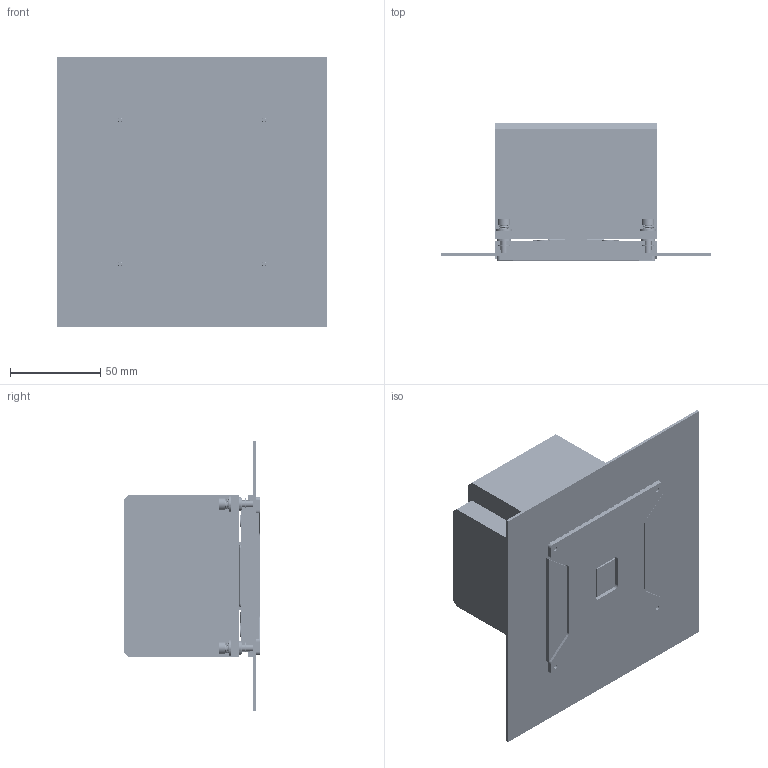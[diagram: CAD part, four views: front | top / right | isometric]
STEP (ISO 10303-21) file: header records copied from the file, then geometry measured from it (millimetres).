
FILE_DESCRIPTION((''),'2;1');
FILE_NAME('THURLEY_HEATSINK_EC_SUBASSY_ASM','2009-10-02T',('nulen'),('INTEL'),'PRO/ENGINEER BY PARAMETRIC TECHNOLOGY CORPORATION, 2008400','PRO/ENGINEER BY PARAMETRIC TECHNOLOGY CORPORATION, 2008400','');
FILE_SCHEMA(('CONFIG_CONTROL_DESIGN'));
Length unit declared in the file: millimetre
Products named in the file (33): D77712_PTMI; THURLEY_BOARD_COUPON_PTMI; D89212-001_PTMI; D89394-001_PTMI; ILM_STUD_FLUSHMOUNT_PTMI; D88971-001_PTMI; D88972-001_PTMI_ASM; E52211; E52211_CLIP; E52211_ASM; ILM_SKTB_ASSY_SKEL; D79901-003; D79904-003; D79905-002; D80116-004; D80118-004; D79903-006_ASM; NEHALEM_SUBSTRATE_PTMI; NEHALEM_DIE_PTMI; NEHALEM_IHS_PTMI; NEHALEM_SEALANT_PTMI; NEHALEM_PACKAGE_PMTI_ASM; TIM2_PTMI; D90097-001_PTMI; D91472-001_PTMI; D89882-001_PTMI; D89880-001_PTMI; D89885-001_PTMI; D85003-001_PTMI_ASM; D93142-001_PTMI; D93127-001_PTMI_ASM; E52211_CAP; THURLEY_HEATSINK_EC_SUBASSY_ASM
Assembly tree (376 placements, depth 3):
  THURLEY_HEATSINK_EC_SUBASSY_ASM
    D77712_PTMI
    THURLEY_BOARD_COUPON_PTMI
    D88972-001_PTMI_ASM
      D89212-001_PTMI
      D89394-001_PTMI  x4
      ILM_STUD_FLUSHMOUNT_PTMI  x4
      D88971-001_PTMI
    E52211_ASM
      E52211
      E52211_CLIP  x304
    D79903-006_ASM
      ILM_SKTB_ASSY_SKEL
      D79901-003
      D79904-003  x2
      D79905-002
      D80116-004  x4
      D80118-004  x4
    NEHALEM_PACKAGE_PMTI_ASM
      NEHALEM_SUBSTRATE_PTMI
      NEHALEM_DIE_PTMI
      NEHALEM_IHS_PTMI
      NEHALEM_SEALANT_PTMI
    TIM2_PTMI
    D85003-001_PTMI_ASM
      D90097-001_PTMI
      D91472-001_PTMI  x4
      D89882-001_PTMI  x4
      D89880-001_PTMI  x4
      D89885-001_PTMI  x4
    D93127-001_PTMI_ASM
      D93142-001_PTMI
      D91472-001_PTMI  x4
      D89882-001_PTMI  x4
      D89880-001_PTMI  x4
      D89885-001_PTMI  x4
    E52211_CAP
Bounding box: 150 x 75.98 x 150 mm (x, y, z)
Volume: 653929.3 mm3; surface area: 470189.8 mm2
Topology: 369 solids, 379 shells, 17251 faces, 45847 edges, 29444 vertices
Faces by surface type: plane 11291, cylinder 5011, sphere 608, bspline 189, cone 76, torus 76
Entity records: 130067 total; most frequent: CARTESIAN_POINT 30294, ORIENTED_EDGE 20472, DIRECTION 19734, EDGE_CURVE 10250, VECTOR 8930, LINE 8930, VERTEX_POINT 6690, AXIS2_PLACEMENT_3D 5402
